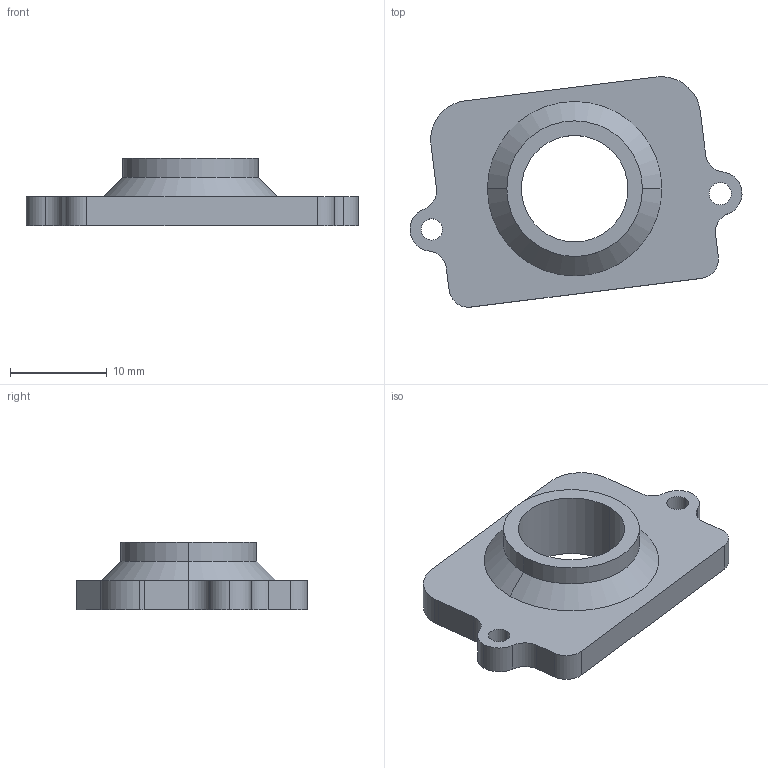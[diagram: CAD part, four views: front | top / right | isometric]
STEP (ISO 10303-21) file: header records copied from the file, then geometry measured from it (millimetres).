
FILE_DESCRIPTION (( 'STEP AP203' ), '1' );
FILE_NAME ('G1手腕相机支架-上装-盖子.STEP', '2025-08-21T06:33:28', ( '' ), ( '' ), 'SwSTEP 2.0', 'SolidWorks 2023', '' );
FILE_SCHEMA (( 'CONFIG_CONTROL_DESIGN' ));
Length unit declared in the file: millimetre
Products named in the file (1): G1手腕相机支架-上装-盖子
Bounding box: 34.27 x 23.79 x 7 mm (x, y, z)
Volume: 1860.6 mm3; surface area: 1731.2 mm2
Topology: 1 solids, 1 shells, 32 faces, 85 edges, 56 vertices
Faces by surface type: cylinder 21, plane 9, cone 2
Entity records: 1106 total; most frequent: DIRECTION 195, CARTESIAN_POINT 174, ORIENTED_EDGE 170, EDGE_CURVE 85, AXIS2_PLACEMENT_3D 77, VERTEX_POINT 56, CIRCLE 44, VECTOR 41
